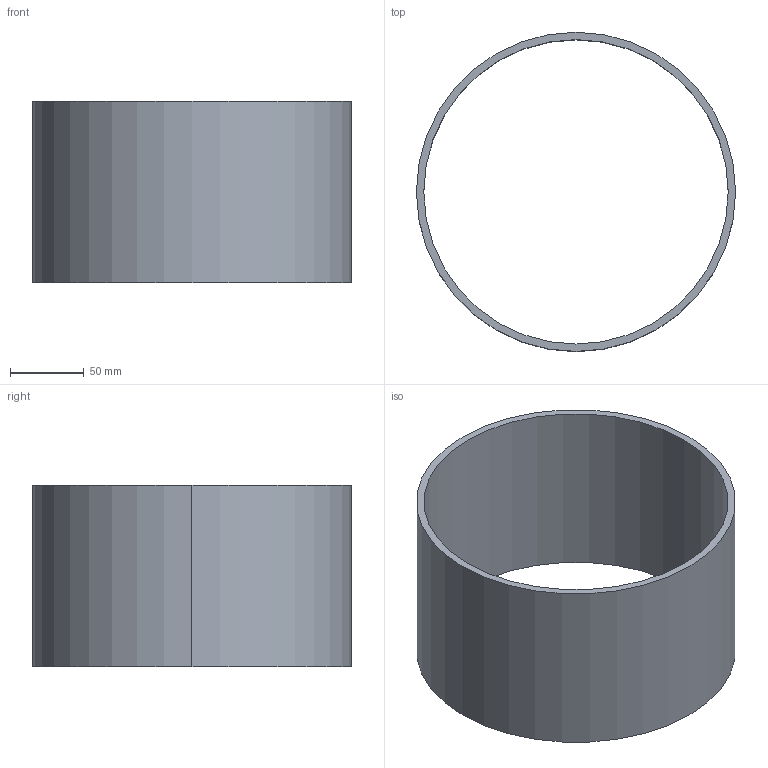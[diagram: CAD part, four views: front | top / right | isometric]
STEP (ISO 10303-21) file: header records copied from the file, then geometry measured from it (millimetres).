
FILE_DESCRIPTION(('CATIA V5 STEP Exchange'),'2;1');
FILE_NAME('C:\_Andres\UNIVERSIDAD\IQS\ASIGNATURAS\DAO\EXF\EXF-15161c\1original\Forés_Garriga_Ej07-tabla_v8.stp','2016-03-04T21:16:33+00:00',('none'),('none'),'CATIA Version 5 Release 20 SP 1 (IN-10)','CATIA V5 STEP AP203','none');
FILE_SCHEMA(('CONFIG_CONTROL_DESIGN'));
Length unit declared in the file: millimetre
Products named in the file (1): Forés_Garriga_Ej07-tabla_v8
Bounding box: 216 x 216 x 123 mm (x, y, z)
Volume: 407668.8 mm3; surface area: 169696.3 mm2
Topology: 1 solids, 1 shells, 6 faces, 13 edges, 10 vertices
Faces by surface type: cylinder 4, plane 2
Entity records: 208 total; most frequent: CARTESIAN_POINT 29, ORIENTED_EDGE 24, DIRECTION 23, AXIS2_PLACEMENT_3D 14, EDGE_CURVE 12, CIRCLE 8, EDGE_LOOP 8, VERTEX_POINT 8
